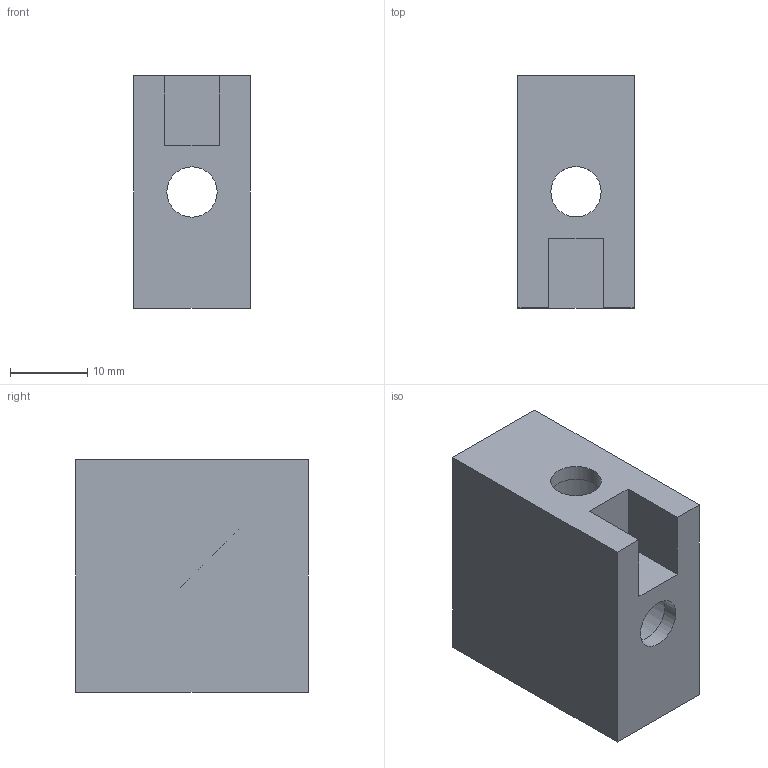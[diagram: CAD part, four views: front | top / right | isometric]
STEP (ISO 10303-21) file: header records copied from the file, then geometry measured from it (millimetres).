
FILE_DESCRIPTION(/* description */ ('Unknown'),/* implementation_level */ '2;1');
FILE_NAME(/* name */ 'DL1530',/* time_stamp */ '2026-09-17T14:46:42+08:00',/* author */ ('Unknown'),/* organization */ ('Unknown'),/* preprocessor_version */ 'ST-DEVELOPER v16.7',/* originating_system */ 'DEX',/* authorisation */ $);
FILE_SCHEMA (('AUTOMOTIVE_DESIGN {1 0 10303 214 3 1 1}'));
Length unit declared in the file: millimetre
Products named in the file (1): DCB1530
Bounding box: 15 x 30 x 30 mm (x, y, z)
Volume: 8365.7 mm3; surface area: 5162.2 mm2
Topology: 1 solids, 1 shells, 18 faces, 44 edges, 28 vertices
Faces by surface type: plane 12, cylinder 6
Full cylindrical faces by diameter (mm): 6.5 x2, 11 x4
Entity records: 522 total; most frequent: DIRECTION 86, CARTESIAN_POINT 81, ORIENTED_EDGE 72, EDGE_CURVE 36, AXIS2_PLACEMENT_3D 31, EDGE_LOOP 30, FACE_BOUND 30, VERTEX_POINT 26
